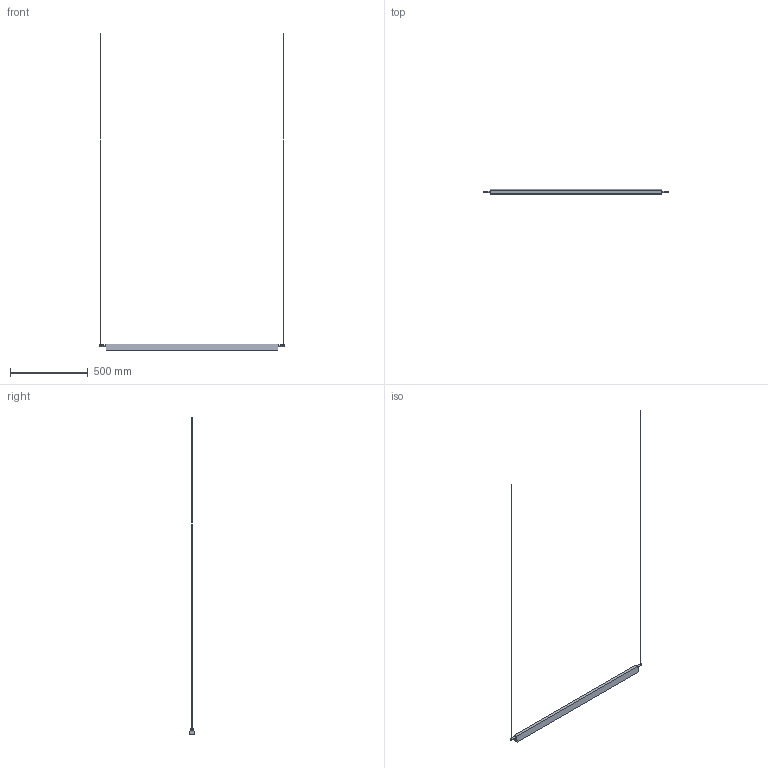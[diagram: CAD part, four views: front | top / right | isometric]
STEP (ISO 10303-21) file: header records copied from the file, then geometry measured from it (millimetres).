
FILE_DESCRIPTION(/* description */ (''),/* implementation_level */ '2;1');
FILE_NAME(/* name */ 'ILKW_PINOCCHIO120_Pendant_3D',/* time_stamp */ '2026-08-28T16:05:21+09:00',/* author */ (''),/* organization */ (''),/* preprocessor_version */ 'ST-DEVELOPER v19.2',/* originating_system */ 'Rhino 8.21',/* authorisation */ '');
FILE_SCHEMA (('CONFIG_CONTROL_DESIGN'));
Length unit declared in the file: millimetre
Products named in the file (1): Document
Bounding box: 1188 x 35 x 2036.1 mm (x, y, z)
Volume: 1248173.7 mm3; surface area: 172373.6 mm2
Topology: 5 solids, 5 shells, 22 faces, 36 edges, 24 vertices
Faces by surface type: plane 14, cylinder 8
Entity records: 592 total; most frequent: CARTESIAN_POINT 136, ORIENTED_EDGE 72, DIRECTION 58, AXIS2_PLACEMENT_3D 40, EDGE_CURVE 36, VERTEX_POINT 24, ADVANCED_FACE 22, FACE_OUTER_BOUND 22
